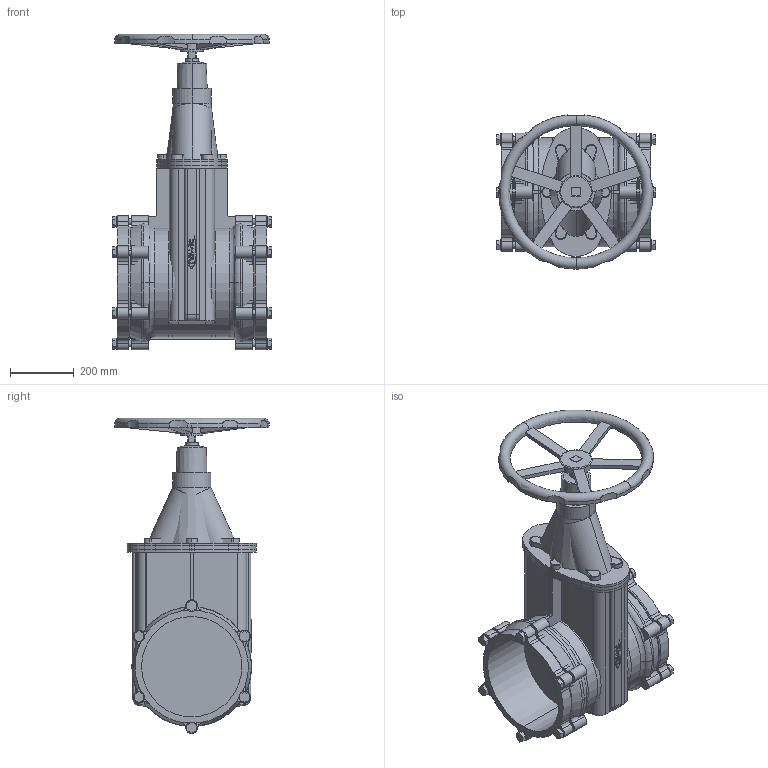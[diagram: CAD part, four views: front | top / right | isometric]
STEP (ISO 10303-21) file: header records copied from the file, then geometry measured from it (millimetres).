
FILE_DESCRIPTION(('STEP AP214'),'1');
FILE_NAME('S:/EK/USER/CAT6/3DHomepage/4040E2/4040E2-PN16-DN300-HANDRAD.STP','2012-04-24T11:36:05',(' '),(' '),'Spatial InterOp 3D',' ',' ');
FILE_SCHEMA(('automotive_design'));
Length unit declared in the file: millimetre
Products named in the file (117): 3D-Objekt
Bounding box: 501 x 484.36 x 990.34 mm (x, y, z)
Volume: 58655468.2 mm3; surface area: 3515668.7 mm2
Topology: 117 solids, 117 shells, 946 faces, 2117 edges, 1409 vertices
Faces by surface type: plane 532, cylinder 356, torus 36, cone 14, bspline 8
Entity records: 37171 total; most frequent: DIRECTION 5064, CARTESIAN_POINT 4995, ORIENTED_EDGE 4234, EDGE_CURVE 2117, AXIS2_PLACEMENT_3D 1902, VERTEX_POINT 1409, LINE 1260, VECTOR 1260
